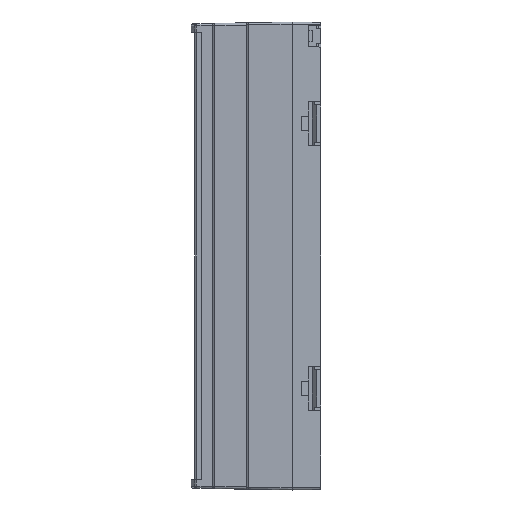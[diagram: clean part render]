
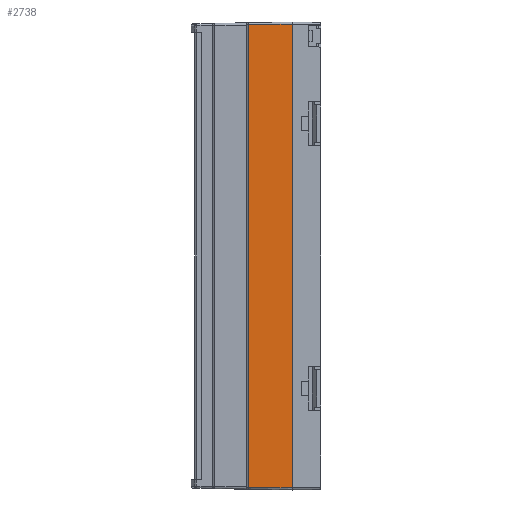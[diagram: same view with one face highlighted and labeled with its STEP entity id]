
A CAD part, left-side view. The second image highlights one B-rep face of the part: STEP entity #2738.
In plain terms, the highlighted planar face has unit normal (-1, 0.018, 0).
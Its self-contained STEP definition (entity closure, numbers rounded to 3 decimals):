
#37 = FACE_OUTER_BOUND ( 'NONE', #7641, .T. ) ;
#103 = CARTESIAN_POINT ( 'NONE',  ( -44.658, -3.283, 104.708 ) ) ;
#320 = CARTESIAN_POINT ( 'NONE',  ( -44.587, 0.778, 106.05 ) ) ;
#1537 = DIRECTION ( 'NONE',  ( -1., 0.017, 0. ) ) ;
#2063 = VERTEX_POINT ( 'NONE', #103 ) ;
#2420 = CARTESIAN_POINT ( 'NONE',  ( -45., -22.917, -105.05 ) ) ;
#2738 = ADVANCED_FACE ( 'NONE', ( #37 ), #15305, .T. ) ;
#3126 = DIRECTION ( 'NONE',  ( -0.017, -1., 0. ) ) ;
#3782 = DIRECTION ( 'NONE',  ( 0., 0., -1. ) ) ;
#3955 = VERTEX_POINT ( 'NONE', #8169 ) ;
#4237 = AXIS2_PLACEMENT_3D ( 'NONE', #320, #1537, #3126 ) ;
#4476 = VERTEX_POINT ( 'NONE', #7071 ) ;
#4765 = DIRECTION ( 'NONE',  ( 0., 0., -1. ) ) ;
#4834 = LINE ( 'NONE', #9683, #13916 ) ;
#5177 = VECTOR ( 'NONE', #9952, 1000. ) ;
#6623 = ORIENTED_EDGE ( 'NONE', *, *, #11771, .T. ) ;
#7066 = CARTESIAN_POINT ( 'NONE',  ( -44.658, -3.283, 106.05 ) ) ;
#7071 = CARTESIAN_POINT ( 'NONE',  ( -45., -22.9, -105.05 ) ) ;
#7641 = EDGE_LOOP ( 'NONE', ( #10001, #7853, #6623, #13063 ) ) ;
#7853 = ORIENTED_EDGE ( 'NONE', *, *, #10953, .T. ) ;
#8105 = LINE ( 'NONE', #2420, #5177 ) ;
#8169 = CARTESIAN_POINT ( 'NONE',  ( -44.658, -3.283, -104.708 ) ) ;
#9683 = CARTESIAN_POINT ( 'NONE',  ( -44.641, -2.317, 104.691 ) ) ;
#9952 = DIRECTION ( 'NONE',  ( -0.017, -1., -0.017 ) ) ;
#10001 = ORIENTED_EDGE ( 'NONE', *, *, #15022, .T. ) ;
#10117 = VERTEX_POINT ( 'NONE', #13689 ) ;
#10953 = EDGE_CURVE ( 'NONE', #2063, #3955, #14583, .T. ) ;
#11205 = EDGE_CURVE ( 'NONE', #10117, #4476, #15174, .T. ) ;
#11771 = EDGE_CURVE ( 'NONE', #3955, #4476, #8105, .T. ) ;
#13063 = ORIENTED_EDGE ( 'NONE', *, *, #11205, .F. ) ;
#13689 = CARTESIAN_POINT ( 'NONE',  ( -45., -22.9, 105.05 ) ) ;
#13844 = DIRECTION ( 'NONE',  ( 0.017, 1., -0.017 ) ) ;
#13916 = VECTOR ( 'NONE', #13844, 1000. ) ;
#14583 = LINE ( 'NONE', #7066, #18127 ) ;
#14625 = VECTOR ( 'NONE', #4765, 1000. ) ;
#15022 = EDGE_CURVE ( 'NONE', #10117, #2063, #4834, .T. ) ;
#15174 = LINE ( 'NONE', #16953, #14625 ) ;
#15305 = PLANE ( 'NONE',  #4237 ) ;
#16953 = CARTESIAN_POINT ( 'NONE',  ( -45., -22.9, 106.05 ) ) ;
#18127 = VECTOR ( 'NONE', #3782, 1000. ) ;
